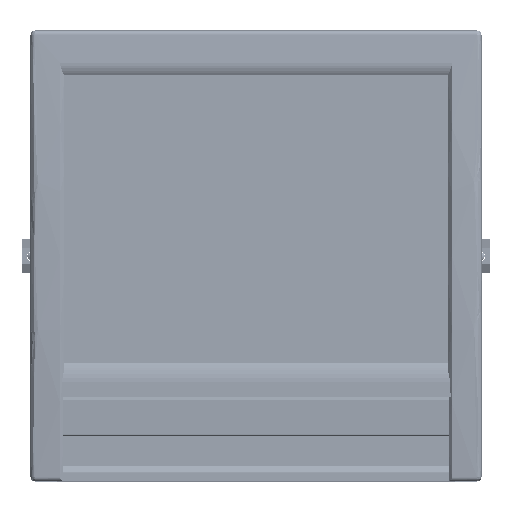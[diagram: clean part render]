
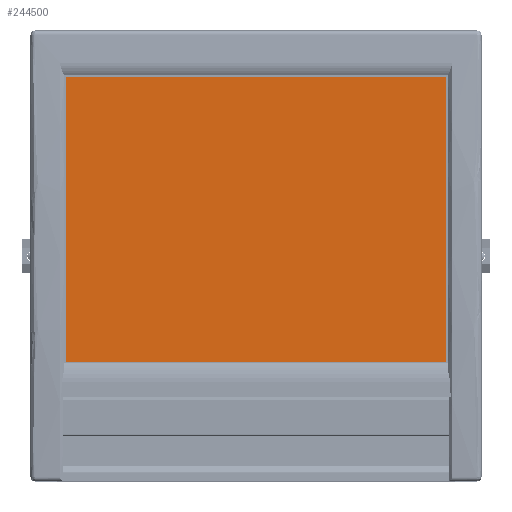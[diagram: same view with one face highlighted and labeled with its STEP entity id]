
A CAD part, top view. The second image highlights one B-rep face of the part: STEP entity #244500.
In plain terms, the highlighted planar face has unit normal (0, 0, 1).
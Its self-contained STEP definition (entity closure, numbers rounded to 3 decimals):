
#50793=DIRECTION('',(0.,1.,0.));
#50794=VECTOR('',#50793,184.4);
#50795=CARTESIAN_POINT('',(23.101,77.55,-11.536));
#50796=LINE('',#50795,#50794);
#50797=DIRECTION('',(1.,0.,0.));
#50798=VECTOR('',#50797,245.8);
#50799=CARTESIAN_POINT('',(23.101,261.95,-11.536));
#50800=LINE('',#50799,#50798);
#50801=DIRECTION('',(0.,-1.,0.));
#50802=VECTOR('',#50801,184.4);
#50803=CARTESIAN_POINT('',(268.901,261.95,-11.536));
#50804=LINE('',#50803,#50802);
#50805=DIRECTION('',(-1.,0.,0.));
#50806=VECTOR('',#50805,245.8);
#50807=CARTESIAN_POINT('',(268.901,77.55,-11.536));
#50808=LINE('',#50807,#50806);
#138002=CARTESIAN_POINT('',(23.101,261.95,-11.536));
#138003=VERTEX_POINT('',#138002);
#138004=CARTESIAN_POINT('',(268.901,261.95,-11.536));
#138005=VERTEX_POINT('',#138004);
#138006=CARTESIAN_POINT('',(268.901,77.55,-11.536));
#138007=VERTEX_POINT('',#138006);
#138008=CARTESIAN_POINT('',(23.101,77.55,-11.536));
#138009=VERTEX_POINT('',#138008);
#244489=CARTESIAN_POINT('',(146.001,169.75,-11.536));
#244490=DIRECTION('',(0.,0.,1.));
#244491=DIRECTION('',(1.,0.,0.));
#244492=AXIS2_PLACEMENT_3D('',#244489,#244490,#244491);
#244493=PLANE('',#244492);
#244494=ORIENTED_EDGE('',*,*,#244441,.T.);
#244495=ORIENTED_EDGE('',*,*,#244456,.T.);
#244496=ORIENTED_EDGE('',*,*,#244470,.T.);
#244497=ORIENTED_EDGE('',*,*,#244483,.T.);
#244498=EDGE_LOOP('',(#244494,#244495,#244496,#244497));
#244499=FACE_OUTER_BOUND('',#244498,.F.);
#244441=EDGE_CURVE('',#138009,#138003,#50796,.T.);
#244456=EDGE_CURVE('',#138003,#138005,#50800,.T.);
#244470=EDGE_CURVE('',#138005,#138007,#50804,.T.);
#244483=EDGE_CURVE('',#138007,#138009,#50808,.T.);
#244500=ADVANCED_FACE('',(#244499),#244493,.T.);
